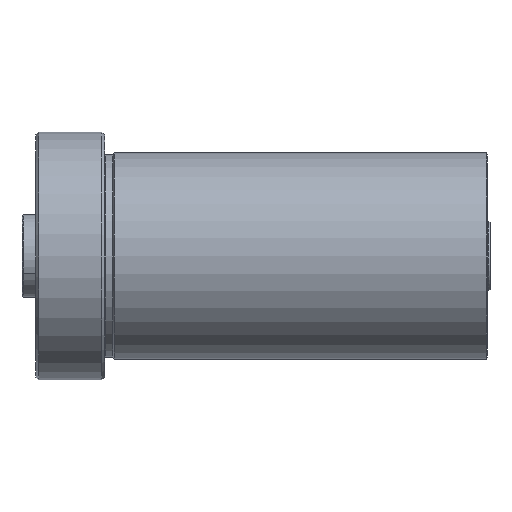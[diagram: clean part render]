
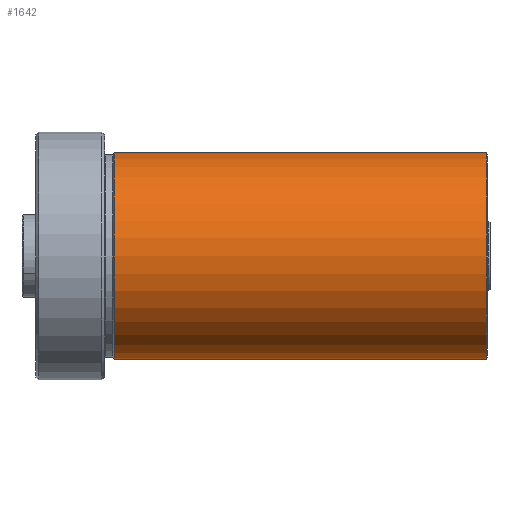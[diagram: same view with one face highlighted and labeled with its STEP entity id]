
A CAD part, left-side view. The second image highlights one B-rep face of the part: STEP entity #1642.
In plain terms, the highlighted cylindrical face has radius 37.5 mm (diameter 75 mm), a partial arc.
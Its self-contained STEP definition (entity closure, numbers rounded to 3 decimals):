
#18 = CARTESIAN_POINT ( 'NONE',  ( 0., -9.993, 37.5 ) ) ;
#326 = CARTESIAN_POINT ( 'NONE',  ( 0., -9.993, -37.5 ) ) ;
#330 = CYLINDRICAL_SURFACE ( 'NONE', #911, 37.5 ) ;
#685 = EDGE_CURVE ( 'NONE', #994, #3387, #3039, .T. ) ;
#711 = EDGE_CURVE ( 'NONE', #2752, #994, #2281, .T. ) ;
#738 = CARTESIAN_POINT ( 'NONE',  ( 0., 135.567, 37.5 ) ) ;
#772 = EDGE_CURVE ( 'NONE', #2752, #1751, #3964, .T. ) ;
#909 = DIRECTION ( 'NONE',  ( 0., -1., 0. ) ) ;
#910 = DIRECTION ( 'NONE',  ( 0., -1., 0. ) ) ;
#911 = AXIS2_PLACEMENT_3D ( 'NONE', #2732, #909, #1562 ) ;
#994 = VERTEX_POINT ( 'NONE', #3267 ) ;
#1077 = EDGE_LOOP ( 'NONE', ( #1166, #2395, #2079, #3220 ) ) ;
#1166 = ORIENTED_EDGE ( 'NONE', *, *, #711, .F. ) ;
#1382 = CARTESIAN_POINT ( 'NONE',  ( 0., 0.433, -37.5 ) ) ;
#1474 = VECTOR ( 'NONE', #910, 1000. ) ;
#1562 = DIRECTION ( 'NONE',  ( 0., 0., -1. ) ) ;
#1565 = DIRECTION ( 'NONE',  ( 0., 0., -1. ) ) ;
#1642 = ADVANCED_FACE ( 'NONE', ( #1836 ), #330, .T. ) ;
#1751 = VERTEX_POINT ( 'NONE', #2253 ) ;
#1836 = FACE_OUTER_BOUND ( 'NONE', #1077, .T. ) ;
#2079 = ORIENTED_EDGE ( 'NONE', *, *, #2542, .T. ) ;
#2154 = DIRECTION ( 'NONE',  ( 0., -1., 0. ) ) ;
#2253 = CARTESIAN_POINT ( 'NONE',  ( 0., 135.567, -37.5 ) ) ;
#2281 = LINE ( 'NONE', #18, #1474 ) ;
#2395 = ORIENTED_EDGE ( 'NONE', *, *, #772, .T. ) ;
#2459 = CARTESIAN_POINT ( 'NONE',  ( 0., 0.433, 0. ) ) ;
#2542 = EDGE_CURVE ( 'NONE', #1751, #3387, #2584, .T. ) ;
#2584 = LINE ( 'NONE', #326, #3843 ) ;
#2732 = CARTESIAN_POINT ( 'NONE',  ( 0., -9.993, 0. ) ) ;
#2752 = VERTEX_POINT ( 'NONE', #738 ) ;
#2934 = AXIS2_PLACEMENT_3D ( 'NONE', #2459, #2154, #1565 ) ;
#3039 = CIRCLE ( 'NONE', #2934, 37.5 ) ;
#3128 = CARTESIAN_POINT ( 'NONE',  ( 0., 135.567, 0. ) ) ;
#3220 = ORIENTED_EDGE ( 'NONE', *, *, #685, .F. ) ;
#3267 = CARTESIAN_POINT ( 'NONE',  ( 0., 0.433, 37.5 ) ) ;
#3363 = DIRECTION ( 'NONE',  ( 0., -1., 0. ) ) ;
#3387 = VERTEX_POINT ( 'NONE', #1382 ) ;
#3446 = DIRECTION ( 'NONE',  ( 0., 0., -1. ) ) ;
#3471 = DIRECTION ( 'NONE',  ( 0., -1., 0. ) ) ;
#3607 = AXIS2_PLACEMENT_3D ( 'NONE', #3128, #3471, #3446 ) ;
#3843 = VECTOR ( 'NONE', #3363, 1000. ) ;
#3964 = CIRCLE ( 'NONE', #3607, 37.5 ) ;
